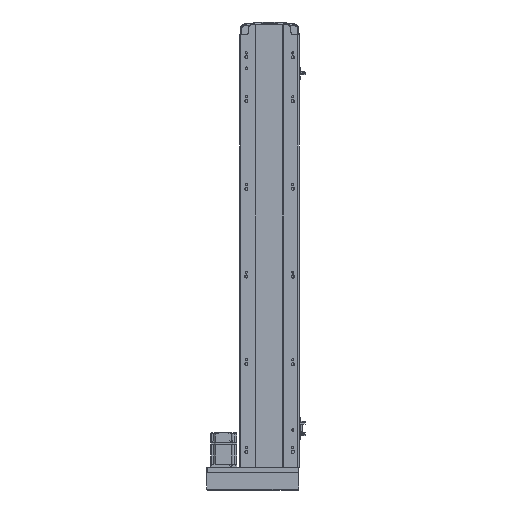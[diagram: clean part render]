
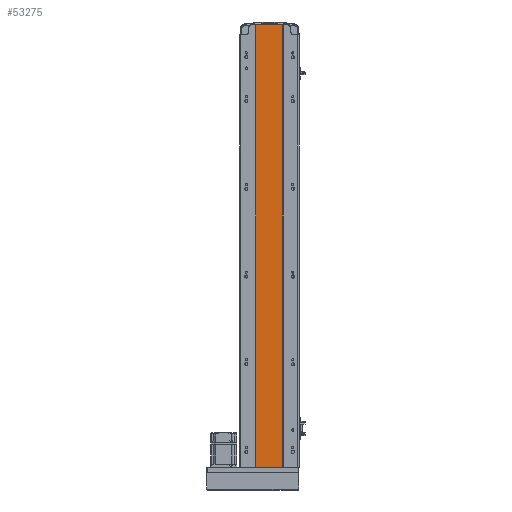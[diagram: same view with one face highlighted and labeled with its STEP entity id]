
A CAD part, front view. The second image highlights one B-rep face of the part: STEP entity #53275.
In plain terms, the highlighted planar face has unit normal (0, -1, 0).
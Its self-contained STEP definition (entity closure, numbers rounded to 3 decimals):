
#2731 = DIRECTION ( 'NONE',  ( 1., 0., 0. ) ) ;
#4283 = DIRECTION ( 'NONE',  ( 0., 1., 0. ) ) ;
#5355 = VERTEX_POINT ( 'NONE', #16109 ) ;
#5747 = CARTESIAN_POINT ( 'NONE',  ( -32., 1., 1009. ) ) ;
#7243 = DIRECTION ( 'NONE',  ( 0., 0., -1. ) ) ;
#9716 = DIRECTION ( 'NONE',  ( 0., 0., -1. ) ) ;
#11304 = CARTESIAN_POINT ( 'NONE',  ( -32., 1., 1009. ) ) ;
#13647 = CARTESIAN_POINT ( 'NONE',  ( -32., 1., 1009. ) ) ;
#14250 = EDGE_CURVE ( 'NONE', #24079, #15508, #43114, .T. ) ;
#15508 = VERTEX_POINT ( 'NONE', #45811 ) ;
#16109 = CARTESIAN_POINT ( 'NONE',  ( -32., 1., 0. ) ) ;
#17298 = ORIENTED_EDGE ( 'NONE', *, *, #14250, .F. ) ;
#17411 = VERTEX_POINT ( 'NONE', #5747 ) ;
#18093 = LINE ( 'NONE', #36531, #50919 ) ;
#20135 = LINE ( 'NONE', #11304, #21529 ) ;
#21529 = VECTOR ( 'NONE', #2731, 1000. ) ;
#22039 = DIRECTION ( 'NONE',  ( -1., 0., 0. ) ) ;
#24079 = VERTEX_POINT ( 'NONE', #40458 ) ;
#27562 = FACE_OUTER_BOUND ( 'NONE', #41061, .T. ) ;
#28811 = ORIENTED_EDGE ( 'NONE', *, *, #50398, .T. ) ;
#30414 = ORIENTED_EDGE ( 'NONE', *, *, #57472, .T. ) ;
#31112 = VECTOR ( 'NONE', #41705, 1000. ) ;
#33263 = LINE ( 'NONE', #55573, #31112 ) ;
#33379 = VECTOR ( 'NONE', #7243, 1000. ) ;
#33616 = ORIENTED_EDGE ( 'NONE', *, *, #36210, .F. ) ;
#36210 = EDGE_CURVE ( 'NONE', #17411, #24079, #20135, .T. ) ;
#36531 = CARTESIAN_POINT ( 'NONE',  ( -32., 1., 1009. ) ) ;
#39694 = PLANE ( 'NONE',  #48132 ) ;
#40458 = CARTESIAN_POINT ( 'NONE',  ( 30., 1., 1009. ) ) ;
#41061 = EDGE_LOOP ( 'NONE', ( #30414, #17298, #33616, #28811 ) ) ;
#41705 = DIRECTION ( 'NONE',  ( 1., 0., 0. ) ) ;
#43114 = LINE ( 'NONE', #56478, #33379 ) ;
#45811 = CARTESIAN_POINT ( 'NONE',  ( 30., 1., 0. ) ) ;
#48132 = AXIS2_PLACEMENT_3D ( 'NONE', #13647, #4283, #22039 ) ;
#50398 = EDGE_CURVE ( 'NONE', #17411, #5355, #18093, .T. ) ;
#50919 = VECTOR ( 'NONE', #9716, 1000. ) ;
#53275 = ADVANCED_FACE ( 'NONE', ( #27562 ), #39694, .F. ) ;
#55573 = CARTESIAN_POINT ( 'NONE',  ( -32., 1., 0. ) ) ;
#56478 = CARTESIAN_POINT ( 'NONE',  ( 30., 1., 1009. ) ) ;
#57472 = EDGE_CURVE ( 'NONE', #5355, #15508, #33263, .T. ) ;
